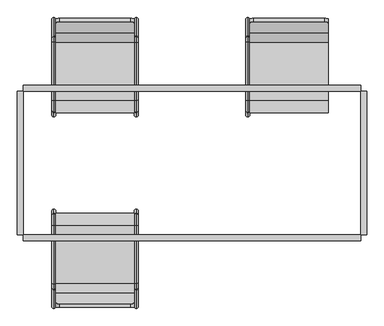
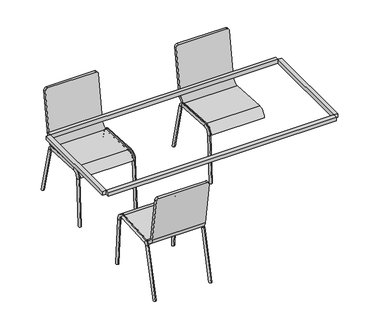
"""IFC4 building model written with IfcOpenShell, lengths in millimetres: furniture geometry, Esstisch mit Stühlen : 140 x 80 x 75 - 4 Stühle."""

from ifc_helpers import new_model, si_unit, point, frame, origin, place, context, project, spatial, polyline, circle_curve, ellipse_curve, trimmed, outline, extrude, source, transform, mapped, element, save
from ifc_brep_helpers import plane_surface, cylinder_surface, revolved_surface, advanced_brep


def furniture_cb06e47c(model_context):
    return source(origin(), model_context, "Body", "SolidModel", [
        advanced_brep(
        [(-389.1443717, 248.0385228, 0.0), (-399.1443717, 238.0554101, 0.5809138), (-409.1443717, 248.0385228, 0.0), (-399.1443717, 634.1722272, 383.1163586), (-399.1443717, 653.5781417, 387.9547965), (-399.1443717, 750.3061363, 0.0), (-399.1443717, 729.6938637, 0.0), (-399.1443717, 258.0554387, 0.0), (-399.1443717, 621.6509897, 414.4284246), (-399.1443717, 620.489162, 394.4621992), (-399.1443717, 322.0871192, 411.8261096), (-399.1443717, 323.2489468, 431.792335), (-399.1443717, 279.8310131, 374.2173141), (-399.1443717, 259.8647877, 375.3791418)],
        [
            (0, 1, circle_curve(frame((-399.1443717, 248.0385228, 0.0), z_axis=(0.0, -0.058091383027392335, -0.9983112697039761), x_axis=(0.0, -0.9983112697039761, 0.058091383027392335)), 10.0)),
            (1, 2, circle_curve(frame((-399.1443717, 248.0385228, 0.0), z_axis=(0.0, -0.058091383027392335, -0.9983112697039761), x_axis=(0.0, -0.9983112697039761, 0.058091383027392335)), 10.0)),
            (2, 0),
            (3, 4, circle_curve(frame((-399.1443717, 643.8751844, 385.5355776), z_axis=(0.0, 0.24192189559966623, -0.9702957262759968), x_axis=(0.0, 0.9702957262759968, 0.24192189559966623)), 10.0)),
            (4, 5),
            (5, 6, ellipse_curve(frame((-399.1443717, 740.0, 0.0), z_axis=(0.0, 0.0, 1.0), x_axis=(0.0, 1.0, 0.0)), 10.3061363, 10.0)),
            (6, 3),
            (4, 3, circle_curve(frame((-399.1443717, 643.8751844, 385.5355776), z_axis=(0.0, 0.24192189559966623, -0.9702957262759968), x_axis=(0.0, 0.9702957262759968, 0.24192189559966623)), 10.0)),
            (6, 5, ellipse_curve(frame((-399.1443717, 740.0, 0.0), z_axis=(0.0, 0.0, 1.0), x_axis=(0.0, 1.0, 0.0)), 10.3061363, 10.0)),
            (2, 7, ellipse_curve(frame((-399.1443717, 248.0385228, 0.0), z_axis=(0.0, 0.0, -1.0), x_axis=(0.0, 1.0, 0.0)), 10.0169159, 10.0)),
            (7, 0, ellipse_curve(frame((-399.1443717, 248.0385228, 0.0), z_axis=(0.0, 0.0, -1.0), x_axis=(0.0, 1.0, 0.0)), 10.0169159, 10.0)),
            (8, 9, circle_curve(frame((-399.1443717, 621.0700758, 404.4453119), z_axis=(0.0, -0.9983112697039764, 0.058091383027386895), x_axis=(0.0, 0.058091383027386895, 0.9983112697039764)), 10.0)),
            (9, 10),
            (10, 11, circle_curve(frame((-399.1443717, 322.668033, 421.8092223), z_axis=(0.0, 0.9983112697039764, -0.058091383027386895), x_axis=(0.0, 0.058091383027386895, 0.9983112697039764)), 10.0)),
            (11, 8),
            (9, 8, circle_curve(frame((-399.1443717, 621.0700758, 404.4453119), z_axis=(0.0, -0.9983112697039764, 0.058091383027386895), x_axis=(0.0, 0.058091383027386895, 0.9983112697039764)), 10.0)),
            (11, 10, circle_curve(frame((-399.1443717, 322.668033, 421.8092223), z_axis=(0.0, 0.9983112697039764, -0.058091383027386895), x_axis=(0.0, 0.058091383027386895, 0.9983112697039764)), 10.0)),
            (10, 12, circle_curve(frame((-399.1443717, 319.7634639, 371.8936588), z_axis=(1.0, 0.0, 0.0), x_axis=(0.0, 0.05809138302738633, 0.9983112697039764)), 40.0)),
            (12, 13, circle_curve(frame((-399.1443717, 269.8479004, 374.7982279), z_axis=(0.0, 0.058091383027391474, 0.9983112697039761), x_axis=(0.0, -0.9983112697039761, 0.058091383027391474)), 10.0)),
            (13, 11, circle_curve(frame((-399.1443717, 319.7634639, 371.8936588), z_axis=(-1.0, 0.0, 0.0), x_axis=(0.0, 0.05809138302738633, 0.9983112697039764)), 60.0)),
            (13, 12, circle_curve(frame((-399.1443717, 269.8479004, 374.7982279), z_axis=(0.0, 0.05809138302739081, 0.9983112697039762), x_axis=(0.0, -0.9983112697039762, 0.05809138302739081)), 10.0)),
            (12, 7),
            (1, 13),
            (3, 9, circle_curve(frame((-399.1443717, 619.6177913, 379.4875302), z_axis=(1.0, 0.0, 0.0), x_axis=(0.0, 0.9702957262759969, 0.2419218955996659)), 15.0)),
            (8, 4, circle_curve(frame((-399.1443717, 619.6177913, 379.4875302), z_axis=(-1.0, 0.0, 0.0), x_axis=(0.0, 0.9702957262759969, 0.2419218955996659)), 35.0)),
        ],
        [
            plane_surface(frame((-379.1443717, 248.0385228, 0.0), z_axis=(0.0, -0.058091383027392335, -0.9983112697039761), x_axis=(-1.0, 0.0, 0.0))),
            cylinder_surface(frame((-399.1443717, 742.6101503, -10.4687411), z_axis=(0.0, 0.24192189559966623, -0.9702957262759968), x_axis=(0.0, 0.9702957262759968, 0.24192189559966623)), 10.0),
            plane_surface(frame((63.435329, 775.4463822, 0.0), z_axis=(0.0, 0.0, -1.0), x_axis=(-1.0, 0.0, 0.0))),
            cylinder_surface(frame((-399.1443717, 621.0700758, 404.4453119), z_axis=(0.0, 0.9983112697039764, -0.058091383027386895), x_axis=(0.0, 0.058091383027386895, 0.9983112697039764)), 10.0),
            revolved_surface(trimmed(ellipse_curve(frame((-399.1443717, 322.668033, 421.8092223), z_axis=(0.0, 0.9983112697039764, -0.05809138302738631), x_axis=(0.0, 0.05809138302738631, 0.9983112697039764)), 10.0, 10.0), [point((-399.1443717, 322.0871192, 411.8261096))], [point((-399.1443717, 323.2489468, 431.792335))], True, "CARTESIAN"), (-379.1443717, 319.7634639, 371.8936588), (1.0, 0.0, 0.0)),
            revolved_surface(trimmed(ellipse_curve(frame((-399.1443717, 322.668033, 421.8092223), z_axis=(0.0, 0.9983112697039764, -0.05809138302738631), x_axis=(0.0, 0.05809138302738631, 0.9983112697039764)), 10.0, 10.0), [point((-399.1443717, 323.2489468, 431.792335))], [point((-399.1443717, 322.0871192, 411.8261096))], True, "CARTESIAN"), (-379.1443717, 319.7634639, 371.8936588), (1.0, 0.0, 0.0)),
            cylinder_surface(frame((-399.1443717, 269.8479004, 374.7982279), z_axis=(0.0, 0.058091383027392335, 0.9983112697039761), x_axis=(0.0, -0.9983112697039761, 0.058091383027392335)), 10.0),
            revolved_surface(trimmed(ellipse_curve(frame((-399.1443717, 643.8751844, 385.5355776), z_axis=(0.0, 0.2419218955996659, -0.9702957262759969), x_axis=(0.0, 0.9702957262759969, 0.2419218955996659)), 10.0, 10.0), [point((-399.1443717, 634.1722272, 383.1163586))], [point((-399.1443717, 653.5781417, 387.9547965))], True, "CARTESIAN"), (-379.1443717, 619.6177913, 379.4875302), (1.0, 0.0, 0.0)),
            revolved_surface(trimmed(ellipse_curve(frame((-399.1443717, 643.8751844, 385.5355776), z_axis=(0.0, 0.2419218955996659, -0.9702957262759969), x_axis=(0.0, 0.9702957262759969, 0.2419218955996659)), 10.0, 10.0), [point((-399.1443717, 653.5781417, 387.9547965))], [point((-399.1443717, 634.1722272, 383.1163586))], True, "CARTESIAN"), (-379.1443717, 619.6177913, 379.4875302), (1.0, 0.0, 0.0)),
        ],
        [
            (0, [[1, 2, 3]]),
            (1, [[4, 5, 6, 7]]),
            (1, [[8, -7, 9, -5]]),
            (2, [[-3, 10, 11]]),
            (2, [[-6, -9]]),
            (3, [[12, 13, 14, 15]]),
            (3, [[16, -15, 17, -13]]),
            (4, [[-14, 18, 19, 20]]),
            (5, [[-17, -20, 21, -18]]),
            (6, [[-19, 22, -10, -2, 23]]),
            (6, [[-21, -23, -1, -11, -22]]),
            (7, [[-4, 24, -12, 25]]),
            (8, [[-8, -25, -16, -24]]),
        ],
    ),
        advanced_brep(
        [(15.935329, 619.2901891, 414.5657988), (15.935329, 323.2489468, 431.792335), (15.935329, 259.8647877, 375.3791418), (15.935329, 279.8310131, 374.2173141), (15.935329, 322.0871192, 411.8261096), (15.935329, 618.1283614, 394.5995734), (15.935329, 691.4258686, 454.1347035), (15.935329, 742.282073, 794.4215124), (15.935329, 722.5017557, 797.3777006), (15.935329, 671.6455514, 457.0908917), (-389.064671, 619.2901891, 414.5657988), (-389.064671, 671.6455514, 457.0908917), (-389.064671, 722.5017557, 797.3777006), (-389.064671, 742.282073, 794.4215124), (-389.064671, 691.4258686, 454.1347035), (-389.064671, 618.1283614, 394.5995734), (-389.064671, 322.0871192, 411.8261096), (-389.064671, 279.8310131, 374.2173141), (-389.064671, 259.8647877, 375.3791418), (-389.064671, 323.2489468, 431.792335), (-369.064671, 745.2382612, 814.2018297), (-4.064671, 745.2382612, 814.2018297), (-369.064671, 725.4579439, 817.1580179), (-4.064671, 725.4579439, 817.1580179)],
        [
            (0, 1),
            (1, 2, circle_curve(frame((15.935329, 319.7634639, 371.8936588), z_axis=(1.0, 0.0, 0.0), x_axis=(0.0, 1.0, 0.0)), 60.0)),
            (2, 3),
            (3, 4, circle_curve(frame((15.935329, 319.7634639, 371.8936588), z_axis=(-1.0, 0.0, 0.0), x_axis=(0.0, 1.0, 0.0)), 40.0)),
            (4, 5),
            (5, 6, circle_curve(frame((15.935329, 622.1947582, 464.4813623), z_axis=(1.0, 0.0, 0.0), x_axis=(0.0, 1.0, 0.0)), 70.0)),
            (6, 7),
            (7, 8),
            (8, 9),
            (9, 0, circle_curve(frame((15.935329, 622.1947582, 464.4813623), z_axis=(-1.0, 0.0, 0.0), x_axis=(0.0, 1.0, 0.0)), 50.0)),
            (10, 11, circle_curve(frame((-389.064671, 622.1947582, 464.4813623), z_axis=(1.0, 0.0, 0.0), x_axis=(0.0, 1.0, 0.0)), 50.0)),
            (11, 12),
            (12, 13),
            (13, 14),
            (14, 15, circle_curve(frame((-389.064671, 622.1947582, 464.4813623), z_axis=(-1.0, 0.0, 0.0), x_axis=(0.0, 1.0, 0.0)), 70.0)),
            (15, 16),
            (16, 17, circle_curve(frame((-389.064671, 319.7634639, 371.8936588), z_axis=(1.0, 0.0, 0.0), x_axis=(0.0, 1.0, 0.0)), 40.0)),
            (17, 18),
            (18, 19, circle_curve(frame((-389.064671, 319.7634639, 371.8936588), z_axis=(-1.0, 0.0, 0.0), x_axis=(0.0, 1.0, 0.0)), 60.0)),
            (19, 10),
            (0, 10),
            (19, 1),
            (18, 2),
            (17, 3),
            (16, 4),
            (15, 5),
            (14, 6),
            (13, 20, circle_curve(frame((-369.064671, 742.282073, 794.4215124), z_axis=(0.0, 0.9890158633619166, -0.14780941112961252), x_axis=(1.0, 0.0, 0.0)), 20.0)),
            (20, 21),
            (21, 7, circle_curve(frame((-4.064671, 742.282073, 794.4215124), z_axis=(0.0, 0.9890158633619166, -0.14780941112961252), x_axis=(-1.0, 0.0, 0.0)), 20.0)),
            (20, 22),
            (22, 23),
            (23, 21),
            (11, 9),
            (8, 23, circle_curve(frame((-4.064671, 722.5017557, 797.3777006), z_axis=(0.0, -0.9890158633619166, 0.14780941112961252), x_axis=(-1.0, 0.0, 0.0)), 20.0)),
            (22, 12, circle_curve(frame((-369.064671, 722.5017557, 797.3777006), z_axis=(0.0, -0.9890158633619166, 0.14780941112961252), x_axis=(1.0, 0.0, 0.0)), 20.0)),
        ],
        [
            plane_surface(frame((15.935329, 325.4940122, 431.6616954), z_axis=(1.0000000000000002, 0.0, 0.0), x_axis=(0.0, -0.9983112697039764, 0.05809138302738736))),
            plane_surface(frame((-389.064671, 325.4940122, 431.6616954), z_axis=(-1.0000000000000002, 0.0, 0.0), x_axis=(0.0, 0.9983112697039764, -0.05809138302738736))),
            plane_surface(frame((15.935329, 619.2901891, 414.5657988), z_axis=(0.0, 0.05809138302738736, 0.9983112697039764), x_axis=(-1.0, 0.0, 0.0))),
            cylinder_surface(frame((-389.064671, 319.7634639, 371.8936588), z_axis=(1.0, 0.0, 0.0), x_axis=(0.0, 1.0, 0.0)), 60.0),
            plane_surface(frame((15.935329, 259.8647877, 375.3791418), z_axis=(0.0, -0.058091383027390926, -0.9983112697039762), x_axis=(-1.0, 0.0, 0.0))),
            revolved_surface(polyline([(-389.064671, 359.7634639, 371.8936588), (15.935329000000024, 359.7634639, 371.8936588)]), (-389.064671, 319.7634639, 371.8936588), (-1.0, 0.0, 0.0)),
            plane_surface(frame((15.935329, 322.0871192, 411.8261096), z_axis=(0.0, -0.05809138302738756, -0.9983112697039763), x_axis=(-1.0, 0.0, 0.0))),
            cylinder_surface(frame((-389.064671, 622.1947582, 464.4813623), z_axis=(1.0, 0.0, 0.0), x_axis=(0.0, 1.0, 0.0)), 70.0),
            plane_surface(frame((15.935329, 691.4258686, 454.1347035), z_axis=(0.0, 0.9890158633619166, -0.1478094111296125), x_axis=(-1.0, 0.0, 0.0))),
            plane_surface(frame((15.935329, 745.2382612, 814.2018297), z_axis=(0.0, 0.14780941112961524, 0.9890158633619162), x_axis=(-1.0, 0.0, 0.0))),
            plane_surface(frame((15.935329, 725.4579439, 817.1580179), z_axis=(0.0, -0.9890158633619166, 0.14780941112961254), x_axis=(-1.0, 0.0, 0.0))),
            revolved_surface(polyline([(-389.064671, 672.1947582, 464.4813623), (15.935329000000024, 672.1947582, 464.4813623)]), (-389.064671, 622.1947582, 464.4813623), (-1.0, 0.0, 0.0)),
            cylinder_surface(frame((-369.064671, 722.5017557, 797.3777006), z_axis=(0.0, -0.9890158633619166, 0.14780941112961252), x_axis=(1.0, 0.0, 0.0)), 20.0),
            cylinder_surface(frame((-4.064671, 722.5017557, 797.3777006), z_axis=(0.0, -0.9890158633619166, 0.14780941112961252), x_axis=(-1.0, 0.0, 0.0)), 20.0),
        ],
        [
            (0, [[1, 2, 3, 4, 5, 6, 7, 8, 9, 10]]),
            (1, [[11, 12, 13, 14, 15, 16, 17, 18, 19, 20]]),
            (2, [[-1, 21, -20, 22]]),
            (3, [[-2, -22, -19, 23]]),
            (4, [[-3, -23, -18, 24]]),
            (5, [[-4, -24, -17, 25]]),
            (6, [[-5, -25, -16, 26]]),
            (7, [[-6, -26, -15, 27]]),
            (8, [[-27, -14, 28, 29, 30, -7]]),
            (9, [[-29, 31, 32, 33]]),
            (10, [[34, -9, 35, -32, 36, -12]]),
            (11, [[-10, -34, -11, -21]]),
            (12, [[-13, -36, -31, -28]]),
            (13, [[-8, -30, -33, -35]]),
        ],
    ),
        advanced_brep(
        [(-973.9849702, -729.6938637, 0.0), (-973.9849702, -750.3061363, 0.0), (-963.9849702, -248.0385228, 0.0), (-973.9849702, -258.0554387, 0.0), (-983.9849702, -248.0385228, 0.0), (-973.9849702, -634.1722272, 383.1163586), (-973.9849702, -653.5781417, 387.9547965), (-973.9849702, -621.6509897, 414.4284246), (-973.9849702, -620.489162, 394.4621992), (-973.9849702, -323.2489468, 431.792335), (-973.9849702, -322.0871192, 411.8261096), (-973.9849702, -259.8647877, 375.3791418), (-973.9849702, -279.8310131, 374.2173141), (-973.9849702, -238.0554101, 0.5809138)],
        [
            (0, 1, ellipse_curve(frame((-973.9849702, -740.0, 0.0), z_axis=(0.0, 0.0, -1.0), x_axis=(0.0, -1.0, 0.0)), 10.3061363, 10.0)),
            (1, 0, ellipse_curve(frame((-973.9849702, -740.0, 0.0), z_axis=(0.0, 0.0, -1.0), x_axis=(0.0, -1.0, 0.0)), 10.3061363, 10.0)),
            (2, 3, ellipse_curve(frame((-973.9849702, -248.0385228, 0.0), z_axis=(0.0, 0.0, -1.0), x_axis=(0.0, -1.0, 0.0)), 10.0169159, 10.0)),
            (3, 4, ellipse_curve(frame((-973.9849702, -248.0385228, 0.0), z_axis=(0.0, 0.0, -1.0), x_axis=(0.0, -1.0, 0.0)), 10.0169159, 10.0)),
            (4, 2),
            (5, 0),
            (1, 6),
            (6, 5, circle_curve(frame((-973.9849702, -643.8751844, 385.5355776), z_axis=(0.0, -0.24192189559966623, -0.9702957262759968), x_axis=(0.0, -0.9702957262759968, 0.24192189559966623)), 10.0)),
            (5, 6, circle_curve(frame((-973.9849702, -643.8751844, 385.5355776), z_axis=(0.0, -0.24192189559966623, -0.9702957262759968), x_axis=(0.0, -0.9702957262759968, 0.24192189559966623)), 10.0)),
            (6, 7, circle_curve(frame((-973.9849702, -619.6177913, 379.4875302), z_axis=(-1.0, 0.0, 0.0), x_axis=(0.0, -0.9702957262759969, 0.2419218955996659)), 35.0)),
            (7, 8, circle_curve(frame((-973.9849702, -621.0700758, 404.4453119), z_axis=(0.0, -0.9983112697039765, -0.05809138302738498), x_axis=(0.0, -0.05809138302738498, 0.9983112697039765)), 10.0)),
            (8, 5, circle_curve(frame((-973.9849702, -619.6177913, 379.4875302), z_axis=(1.0, 0.0, 0.0), x_axis=(0.0, -0.9702957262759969, 0.2419218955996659)), 15.0)),
            (8, 7, circle_curve(frame((-973.9849702, -621.0700758, 404.4453119), z_axis=(0.0, -0.998311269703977, -0.058091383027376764), x_axis=(0.0, -0.058091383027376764, 0.998311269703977)), 10.0)),
            (7, 9),
            (9, 10, circle_curve(frame((-973.9849702, -322.668033, 421.8092223), z_axis=(0.0, -0.9983112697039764, -0.058091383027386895), x_axis=(0.0, -0.058091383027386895, 0.9983112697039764)), 10.0)),
            (10, 8),
            (10, 9, circle_curve(frame((-973.9849702, -322.668033, 421.8092223), z_axis=(0.0, -0.9983112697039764, -0.058091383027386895), x_axis=(0.0, -0.058091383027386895, 0.9983112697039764)), 10.0)),
            (9, 11, circle_curve(frame((-973.9849702, -319.7634639, 371.8936588), z_axis=(-1.0, 0.0, 0.0), x_axis=(0.0, -0.05809138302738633, 0.9983112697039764)), 60.0)),
            (11, 12, circle_curve(frame((-973.9849702, -269.8479004, 374.7982279), z_axis=(0.0, -0.05809138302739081, 0.9983112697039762), x_axis=(0.0, 0.9983112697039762, 0.05809138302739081)), 10.0)),
            (12, 10, circle_curve(frame((-973.9849702, -319.7634639, 371.8936588), z_axis=(1.0, 0.0, 0.0), x_axis=(0.0, -0.05809138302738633, 0.9983112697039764)), 40.0)),
            (12, 11, circle_curve(frame((-973.9849702, -269.8479004, 374.7982279), z_axis=(0.0, -0.058091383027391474, 0.9983112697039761), x_axis=(0.0, 0.9983112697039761, 0.058091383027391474)), 10.0)),
            (4, 13, circle_curve(frame((-973.9849702, -248.0385228, 0.0), z_axis=(0.0, 0.058091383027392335, -0.9983112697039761), x_axis=(0.0, 0.9983112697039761, 0.058091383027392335)), 10.0)),
            (13, 2, circle_curve(frame((-973.9849702, -248.0385228, 0.0), z_axis=(0.0, 0.058091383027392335, -0.9983112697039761), x_axis=(0.0, 0.9983112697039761, 0.058091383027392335)), 10.0)),
            (11, 13),
            (3, 12),
        ],
        [
            plane_surface(frame((-936.564671, -775.4463822, 0.0), z_axis=(0.0, 0.0, -1.0), x_axis=(-1.0, 0.0, 0.0))),
            cylinder_surface(frame((-973.9849702, -742.6101503, -10.4687411), z_axis=(0.0, -0.24192189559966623, -0.9702957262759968), x_axis=(0.0, -0.9702957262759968, 0.24192189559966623)), 10.0),
            revolved_surface(trimmed(ellipse_curve(frame((-973.9849702, -643.8751844, 385.5355776), z_axis=(0.0, 0.2419218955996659, 0.9702957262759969), x_axis=(0.0, -0.9702957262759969, 0.2419218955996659)), 10.0, 10.0), [point((-973.9849702, -634.1722272, 383.1163586))], [point((-973.9849702, -653.5781417, 387.9547965))], True, "CARTESIAN"), (-993.9849702, -619.6177913, 379.4875302), (1.0, 0.0, 0.0)),
            revolved_surface(trimmed(ellipse_curve(frame((-973.9849702, -643.8751844, 385.5355776), z_axis=(0.0, 0.2419218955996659, 0.9702957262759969), x_axis=(0.0, -0.9702957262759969, 0.2419218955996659)), 10.0, 10.0), [point((-973.9849702, -653.5781417, 387.9547965))], [point((-973.9849702, -634.1722272, 383.1163586))], True, "CARTESIAN"), (-993.9849702, -619.6177913, 379.4875302), (1.0, 0.0, 0.0)),
            cylinder_surface(frame((-973.9849702, -621.0700758, 404.4453119), z_axis=(0.0, -0.9983112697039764, -0.058091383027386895), x_axis=(0.0, -0.058091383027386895, 0.9983112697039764)), 10.0),
            revolved_surface(trimmed(ellipse_curve(frame((-973.9849702, -322.668033, 421.8092223), z_axis=(0.0, 0.9983112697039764, 0.05809138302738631), x_axis=(0.0, -0.05809138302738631, 0.9983112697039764)), 10.0, 10.0), [point((-973.9849702, -322.0871192, 411.8261096))], [point((-973.9849702, -323.2489468, 431.792335))], True, "CARTESIAN"), (-993.9849702, -319.7634639, 371.8936588), (1.0, 0.0, 0.0)),
            revolved_surface(trimmed(ellipse_curve(frame((-973.9849702, -322.668033, 421.8092223), z_axis=(0.0, 0.9983112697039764, 0.05809138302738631), x_axis=(0.0, -0.05809138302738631, 0.9983112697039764)), 10.0, 10.0), [point((-973.9849702, -323.2489468, 431.792335))], [point((-973.9849702, -322.0871192, 411.8261096))], True, "CARTESIAN"), (-993.9849702, -319.7634639, 371.8936588), (1.0, 0.0, 0.0)),
            plane_surface(frame((-993.9849702, -248.0385228, 0.0), z_axis=(0.0, 0.058091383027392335, -0.9983112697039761), x_axis=(1.0, 0.0, 0.0))),
            cylinder_surface(frame((-973.9849702, -269.8479004, 374.7982279), z_axis=(0.0, -0.058091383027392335, 0.9983112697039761), x_axis=(0.0, 0.9983112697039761, 0.058091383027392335)), 10.0),
        ],
        [
            (0, [[1, 2]]),
            (0, [[3, 4, 5]]),
            (1, [[6, -2, 7, 8]]),
            (1, [[-7, -1, -6, 9]]),
            (2, [[10, 11, 12, -8]]),
            (3, [[-12, 13, -10, -9]]),
            (4, [[14, 15, 16, -11]]),
            (4, [[-16, 17, -14, -13]]),
            (5, [[18, 19, 20, -15]]),
            (6, [[-20, 21, -18, -17]]),
            (7, [[-5, 22, 23]]),
            (8, [[24, -22, -4, 25, -19]]),
            (8, [[-25, -3, -23, -24, -21]]),
        ],
    ),
        advanced_brep(
        [(-1389.1443717, -248.0385228, 0.0), (-1409.1443717, -248.0385228, 0.0), (-1399.1443717, -238.0554101, 0.5809138), (-1399.1443717, -634.1722272, 383.1163586), (-1399.1443717, -729.6938637, 0.0), (-1399.1443717, -750.3061363, 0.0), (-1399.1443717, -653.5781417, 387.9547965), (-1399.1443717, -258.0554387, 0.0), (-1399.1443717, -621.6509897, 414.4284246), (-1399.1443717, -323.2489468, 431.792335), (-1399.1443717, -322.0871192, 411.8261096), (-1399.1443717, -620.489162, 394.4621992), (-1399.1443717, -259.8647877, 375.3791418), (-1399.1443717, -279.8310131, 374.2173141)],
        [
            (0, 1),
            (1, 2, circle_curve(frame((-1399.1443717, -248.0385228, 0.0), z_axis=(0.0, 0.058091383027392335, -0.9983112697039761), x_axis=(0.0, 0.9983112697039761, 0.058091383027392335)), 10.0)),
            (2, 0, circle_curve(frame((-1399.1443717, -248.0385228, 0.0), z_axis=(0.0, 0.058091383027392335, -0.9983112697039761), x_axis=(0.0, 0.9983112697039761, 0.058091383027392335)), 10.0)),
            (3, 4),
            (4, 5, ellipse_curve(frame((-1399.1443717, -740.0, 0.0), z_axis=(0.0, 0.0, 1.0), x_axis=(0.0, -1.0, 0.0)), 10.3061363, 10.0)),
            (5, 6),
            (6, 3, circle_curve(frame((-1399.1443717, -643.8751844, 385.5355776), z_axis=(0.0, -0.24192189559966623, -0.9702957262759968), x_axis=(0.0, -0.9702957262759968, 0.24192189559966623)), 10.0)),
            (5, 4, ellipse_curve(frame((-1399.1443717, -740.0, 0.0), z_axis=(0.0, 0.0, 1.0), x_axis=(0.0, -1.0, 0.0)), 10.3061363, 10.0)),
            (3, 6, circle_curve(frame((-1399.1443717, -643.8751844, 385.5355776), z_axis=(0.0, -0.24192189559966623, -0.9702957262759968), x_axis=(0.0, -0.9702957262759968, 0.24192189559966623)), 10.0)),
            (0, 7, ellipse_curve(frame((-1399.1443717, -248.0385228, 0.0), z_axis=(0.0, 0.0, -1.0), x_axis=(0.0, -1.0, 0.0)), 10.0169159, 10.0)),
            (7, 1, ellipse_curve(frame((-1399.1443717, -248.0385228, 0.0), z_axis=(0.0, 0.0, -1.0), x_axis=(0.0, -1.0, 0.0)), 10.0169159, 10.0)),
            (8, 9),
            (9, 10, circle_curve(frame((-1399.1443717, -322.668033, 421.8092223), z_axis=(0.0, -0.9983112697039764, -0.058091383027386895), x_axis=(0.0, -0.058091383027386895, 0.9983112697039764)), 10.0)),
            (10, 11),
            (11, 8, circle_curve(frame((-1399.1443717, -621.0700758, 404.4453119), z_axis=(0.0, 0.9983112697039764, 0.058091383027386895), x_axis=(0.0, -0.058091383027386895, 0.9983112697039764)), 10.0)),
            (10, 9, circle_curve(frame((-1399.1443717, -322.668033, 421.8092223), z_axis=(0.0, -0.9983112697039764, -0.058091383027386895), x_axis=(0.0, -0.058091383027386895, 0.9983112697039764)), 10.0)),
            (8, 11, circle_curve(frame((-1399.1443717, -621.0700758, 404.4453119), z_axis=(0.0, 0.9983112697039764, 0.058091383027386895), x_axis=(0.0, -0.058091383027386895, 0.9983112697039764)), 10.0)),
            (9, 12, circle_curve(frame((-1399.1443717, -319.7634639, 371.8936588), z_axis=(-1.0, 0.0, 0.0), x_axis=(0.0, -0.05809138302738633, 0.9983112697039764)), 60.0)),
            (12, 13, circle_curve(frame((-1399.1443717, -269.8479004, 374.7982279), z_axis=(0.0, -0.05809138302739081, 0.9983112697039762), x_axis=(0.0, 0.9983112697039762, 0.05809138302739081)), 10.0)),
            (13, 10, circle_curve(frame((-1399.1443717, -319.7634639, 371.8936588), z_axis=(1.0, 0.0, 0.0), x_axis=(0.0, -0.05809138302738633, 0.9983112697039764)), 40.0)),
            (13, 12, circle_curve(frame((-1399.1443717, -269.8479004, 374.7982279), z_axis=(0.0, -0.058091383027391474, 0.9983112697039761), x_axis=(0.0, 0.9983112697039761, 0.058091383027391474)), 10.0)),
            (12, 2),
            (7, 13),
            (6, 8, circle_curve(frame((-1399.1443717, -619.6177913, 379.4875302), z_axis=(-1.0, 0.0, 0.0), x_axis=(0.0, -0.9702957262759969, 0.2419218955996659)), 35.0)),
            (11, 3, circle_curve(frame((-1399.1443717, -619.6177913, 379.4875302), z_axis=(1.0, 0.0, 0.0), x_axis=(0.0, -0.9702957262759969, 0.2419218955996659)), 15.0)),
        ],
        [
            plane_surface(frame((-1379.1443717, -248.0385228, 0.0), z_axis=(0.0, 0.058091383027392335, -0.9983112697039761), x_axis=(-1.0, 0.0, 0.0))),
            cylinder_surface(frame((-1399.1443717, -742.6101503, -10.4687411), z_axis=(0.0, -0.24192189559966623, -0.9702957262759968), x_axis=(0.0, -0.9702957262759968, 0.24192189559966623)), 10.0),
            plane_surface(frame((-936.564671, -775.4463822, 0.0), z_axis=(0.0, 0.0, -1.0), x_axis=(-1.0, 0.0, 0.0))),
            cylinder_surface(frame((-1399.1443717, -621.0700758, 404.4453119), z_axis=(0.0, -0.9983112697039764, -0.058091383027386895), x_axis=(0.0, -0.058091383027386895, 0.9983112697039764)), 10.0),
            revolved_surface(trimmed(ellipse_curve(frame((-1399.1443717, -322.668033, 421.8092223), z_axis=(0.0, 0.9983112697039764, 0.05809138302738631), x_axis=(0.0, -0.05809138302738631, 0.9983112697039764)), 10.0, 10.0), [point((-1399.1443717, -322.0871192, 411.8261096))], [point((-1399.1443717, -323.2489468, 431.792335))], True, "CARTESIAN"), (-1379.1443717, -319.7634639, 371.8936588), (1.0, 0.0, 0.0)),
            revolved_surface(trimmed(ellipse_curve(frame((-1399.1443717, -322.668033, 421.8092223), z_axis=(0.0, 0.9983112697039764, 0.05809138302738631), x_axis=(0.0, -0.05809138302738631, 0.9983112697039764)), 10.0, 10.0), [point((-1399.1443717, -323.2489468, 431.792335))], [point((-1399.1443717, -322.0871192, 411.8261096))], True, "CARTESIAN"), (-1379.1443717, -319.7634639, 371.8936588), (1.0, 0.0, 0.0)),
            cylinder_surface(frame((-1399.1443717, -269.8479004, 374.7982279), z_axis=(0.0, -0.058091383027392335, 0.9983112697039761), x_axis=(0.0, 0.9983112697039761, 0.058091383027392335)), 10.0),
            revolved_surface(trimmed(ellipse_curve(frame((-1399.1443717, -643.8751844, 385.5355776), z_axis=(0.0, 0.2419218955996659, 0.9702957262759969), x_axis=(0.0, -0.9702957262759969, 0.2419218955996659)), 10.0, 10.0), [point((-1399.1443717, -634.1722272, 383.1163586))], [point((-1399.1443717, -653.5781417, 387.9547965))], True, "CARTESIAN"), (-1379.1443717, -619.6177913, 379.4875302), (1.0, 0.0, 0.0)),
            revolved_surface(trimmed(ellipse_curve(frame((-1399.1443717, -643.8751844, 385.5355776), z_axis=(0.0, 0.2419218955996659, 0.9702957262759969), x_axis=(0.0, -0.9702957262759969, 0.2419218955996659)), 10.0, 10.0), [point((-1399.1443717, -653.5781417, 387.9547965))], [point((-1399.1443717, -634.1722272, 383.1163586))], True, "CARTESIAN"), (-1379.1443717, -619.6177913, 379.4875302), (1.0, 0.0, 0.0)),
        ],
        [
            (0, [[1, 2, 3]]),
            (1, [[4, 5, 6, 7]]),
            (1, [[-6, 8, -4, 9]]),
            (2, [[-8, -5]]),
            (2, [[10, 11, -1]]),
            (3, [[12, 13, 14, 15]]),
            (3, [[-14, 16, -12, 17]]),
            (4, [[18, 19, 20, -13]]),
            (5, [[-20, 21, -18, -16]]),
            (6, [[22, -2, -11, 23, -19]]),
            (6, [[-23, -10, -3, -22, -21]]),
            (7, [[24, -15, 25, -7]]),
            (8, [[-25, -17, -24, -9]]),
        ],
    ),
        advanced_brep(
        [(-984.064671, -619.2901891, 414.5657988), (-984.064671, -671.6455514, 457.0908917), (-984.064671, -722.5017557, 797.3777006), (-984.064671, -742.282073, 794.4215124), (-984.064671, -691.4258686, 454.1347035), (-984.064671, -618.1283614, 394.5995734), (-984.064671, -322.0871192, 411.8261096), (-984.064671, -279.8310131, 374.2173141), (-984.064671, -259.8647877, 375.3791418), (-984.064671, -323.2489468, 431.792335), (-1389.064671, -619.2901891, 414.5657988), (-1389.064671, -323.2489468, 431.792335), (-1389.064671, -259.8647877, 375.3791418), (-1389.064671, -279.8310131, 374.2173141), (-1389.064671, -322.0871192, 411.8261096), (-1389.064671, -618.1283614, 394.5995734), (-1389.064671, -691.4258686, 454.1347035), (-1389.064671, -742.282073, 794.4215124), (-1389.064671, -722.5017557, 797.3777006), (-1389.064671, -671.6455514, 457.0908917), (-1004.064671, -745.2382612, 814.2018297), (-1369.064671, -745.2382612, 814.2018297), (-1004.064671, -725.4579439, 817.1580179), (-1369.064671, -725.4579439, 817.1580179)],
        [
            (0, 1, circle_curve(frame((-984.064671, -622.1947582, 464.4813623), z_axis=(-1.0, 0.0, 0.0), x_axis=(0.0, -1.0, 0.0)), 50.0)),
            (1, 2),
            (2, 3),
            (3, 4),
            (4, 5, circle_curve(frame((-984.064671, -622.1947582, 464.4813623), z_axis=(1.0, 0.0, 0.0), x_axis=(0.0, -1.0, 0.0)), 70.0)),
            (5, 6),
            (6, 7, circle_curve(frame((-984.064671, -319.7634639, 371.8936588), z_axis=(-1.0, 0.0, 0.0), x_axis=(0.0, -1.0, 0.0)), 40.0)),
            (7, 8),
            (8, 9, circle_curve(frame((-984.064671, -319.7634639, 371.8936588), z_axis=(1.0, 0.0, 0.0), x_axis=(0.0, -1.0, 0.0)), 60.0)),
            (9, 0),
            (10, 11),
            (11, 12, circle_curve(frame((-1389.064671, -319.7634639, 371.8936588), z_axis=(-1.0, 0.0, 0.0), x_axis=(0.0, -1.0, 0.0)), 60.0)),
            (12, 13),
            (13, 14, circle_curve(frame((-1389.064671, -319.7634639, 371.8936588), z_axis=(1.0, 0.0, 0.0), x_axis=(0.0, -1.0, 0.0)), 40.0)),
            (14, 15),
            (15, 16, circle_curve(frame((-1389.064671, -622.1947582, 464.4813623), z_axis=(-1.0, 0.0, 0.0), x_axis=(0.0, -1.0, 0.0)), 70.0)),
            (16, 17),
            (17, 18),
            (18, 19),
            (19, 10, circle_curve(frame((-1389.064671, -622.1947582, 464.4813623), z_axis=(1.0, 0.0, 0.0), x_axis=(0.0, -1.0, 0.0)), 50.0)),
            (9, 11),
            (10, 0),
            (8, 12),
            (7, 13),
            (6, 14),
            (5, 15),
            (4, 16),
            (3, 20, circle_curve(frame((-1004.064671, -742.282073, 794.4215124), z_axis=(0.0, -0.9890158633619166, -0.14780941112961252), x_axis=(-1.0, 0.0, 0.0)), 20.0)),
            (20, 21),
            (21, 17, circle_curve(frame((-1369.064671, -742.282073, 794.4215124), z_axis=(0.0, -0.9890158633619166, -0.14780941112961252), x_axis=(1.0, 0.0, 0.0)), 20.0)),
            (20, 22),
            (22, 23),
            (23, 21),
            (18, 23, circle_curve(frame((-1369.064671, -722.5017557, 797.3777006), z_axis=(0.0, 0.9890158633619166, 0.14780941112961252), x_axis=(1.0, 0.0, 0.0)), 20.0)),
            (22, 2, circle_curve(frame((-1004.064671, -722.5017557, 797.3777006), z_axis=(0.0, 0.9890158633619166, 0.14780941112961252), x_axis=(-1.0, 0.0, 0.0)), 20.0)),
            (1, 19),
        ],
        [
            plane_surface(frame((-984.064671, -325.4940122, 431.6616954), z_axis=(1.0000000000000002, 0.0, 0.0), x_axis=(0.0, 0.9983112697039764, 0.05809138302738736))),
            plane_surface(frame((-1389.064671, -325.4940122, 431.6616954), z_axis=(-1.0000000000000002, 0.0, 0.0), x_axis=(0.0, -0.9983112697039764, -0.05809138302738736))),
            plane_surface(frame((-984.064671, -619.2901891, 414.5657988), z_axis=(0.0, -0.05809138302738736, 0.9983112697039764), x_axis=(-1.0, 0.0, 0.0))),
            cylinder_surface(frame((-1389.064671, -319.7634639, 371.8936588), z_axis=(1.0, 0.0, 0.0), x_axis=(0.0, -1.0, 0.0)), 60.0),
            plane_surface(frame((-984.064671, -259.8647877, 375.3791418), z_axis=(0.0, 0.058091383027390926, -0.9983112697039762), x_axis=(-1.0, 0.0, 0.0))),
            revolved_surface(polyline([(-1389.064671, -359.7634639, 371.8936588), (-984.064671, -359.7634639, 371.8936588)]), (-1389.064671, -319.7634639, 371.8936588), (-1.0, 0.0, 0.0)),
            plane_surface(frame((-984.064671, -322.0871192, 411.8261096), z_axis=(0.0, 0.05809138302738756, -0.9983112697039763), x_axis=(-1.0, 0.0, 0.0))),
            cylinder_surface(frame((-1389.064671, -622.1947582, 464.4813623), z_axis=(1.0, 0.0, 0.0), x_axis=(0.0, -1.0, 0.0)), 70.0),
            plane_surface(frame((-984.064671, -691.4258686, 454.1347035), z_axis=(0.0, -0.9890158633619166, -0.1478094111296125), x_axis=(-1.0, 0.0, 0.0))),
            plane_surface(frame((-984.064671, -745.2382612, 814.2018297), z_axis=(0.0, -0.14780941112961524, 0.9890158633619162), x_axis=(-1.0, 0.0, 0.0))),
            plane_surface(frame((-984.064671, -725.4579439, 817.1580179), z_axis=(0.0, 0.9890158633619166, 0.14780941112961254), x_axis=(-1.0, 0.0, 0.0))),
            revolved_surface(polyline([(-1389.064671, -672.1947582, 464.4813623), (-984.064671, -672.1947582, 464.4813623)]), (-1389.064671, -622.1947582, 464.4813623), (-1.0, 0.0, 0.0)),
            cylinder_surface(frame((-1369.064671, -722.5017557, 797.3777006), z_axis=(0.0, 0.9890158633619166, 0.14780941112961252), x_axis=(1.0, 0.0, 0.0)), 20.0),
            cylinder_surface(frame((-1004.064671, -722.5017557, 797.3777006), z_axis=(0.0, 0.9890158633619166, 0.14780941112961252), x_axis=(-1.0, 0.0, 0.0)), 20.0),
        ],
        [
            (0, [[1, 2, 3, 4, 5, 6, 7, 8, 9, 10]]),
            (1, [[11, 12, 13, 14, 15, 16, 17, 18, 19, 20]]),
            (2, [[21, -11, 22, -10]]),
            (3, [[23, -12, -21, -9]]),
            (4, [[24, -13, -23, -8]]),
            (5, [[25, -14, -24, -7]]),
            (6, [[26, -15, -25, -6]]),
            (7, [[27, -16, -26, -5]]),
            (8, [[-4, 28, 29, 30, -17, -27]]),
            (9, [[31, 32, 33, -29]]),
            (10, [[-19, 34, -32, 35, -2, 36]]),
            (11, [[-22, -20, -36, -1]]),
            (12, [[-30, -33, -34, -18]]),
            (13, [[-35, -31, -28, -3]]),
        ],
    ),
        advanced_brep(
        [(-973.9849702, 729.6938637, 0.0), (-973.9849702, 750.3061363, 0.0), (-963.9849702, 248.0385228, 0.0), (-983.9849702, 248.0385228, 0.0), (-973.9849702, 258.0554387, 0.0), (-973.9849702, 634.1722272, 383.1163586), (-973.9849702, 653.5781417, 387.9547965), (-973.9849702, 620.489162, 394.4621992), (-973.9849702, 621.6509897, 414.4284246), (-973.9849702, 322.0871192, 411.8261096), (-973.9849702, 323.2489468, 431.792335), (-973.9849702, 279.8310131, 374.2173141), (-973.9849702, 259.8647877, 375.3791418), (-973.9849702, 238.0554101, 0.5809138)],
        [
            (0, 1, ellipse_curve(frame((-973.9849702, 740.0, 0.0), z_axis=(0.0, 0.0, -1.0), x_axis=(0.0, 1.0, 0.0)), 10.3061363, 10.0)),
            (1, 0, ellipse_curve(frame((-973.9849702, 740.0, 0.0), z_axis=(0.0, 0.0, -1.0), x_axis=(0.0, 1.0, 0.0)), 10.3061363, 10.0)),
            (2, 3),
            (3, 4, ellipse_curve(frame((-973.9849702, 248.0385228, 0.0), z_axis=(0.0, 0.0, -1.0), x_axis=(0.0, 1.0, 0.0)), 10.0169159, 10.0)),
            (4, 2, ellipse_curve(frame((-973.9849702, 248.0385228, 0.0), z_axis=(0.0, 0.0, -1.0), x_axis=(0.0, 1.0, 0.0)), 10.0169159, 10.0)),
            (5, 6, circle_curve(frame((-973.9849702, 643.8751844, 385.5355776), z_axis=(0.0, 0.24192189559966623, -0.9702957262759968), x_axis=(0.0, 0.9702957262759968, 0.24192189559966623)), 10.0)),
            (6, 1),
            (0, 5),
            (6, 5, circle_curve(frame((-973.9849702, 643.8751844, 385.5355776), z_axis=(0.0, 0.24192189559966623, -0.9702957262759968), x_axis=(0.0, 0.9702957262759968, 0.24192189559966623)), 10.0)),
            (5, 7, circle_curve(frame((-973.9849702, 619.6177913, 379.4875302), z_axis=(1.0, 0.0, 0.0), x_axis=(0.0, 0.9702957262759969, 0.2419218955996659)), 15.0)),
            (7, 8, circle_curve(frame((-973.9849702, 621.0700758, 404.4453119), z_axis=(0.0, 0.998311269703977, -0.058091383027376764), x_axis=(0.0, 0.058091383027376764, 0.998311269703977)), 10.0)),
            (8, 6, circle_curve(frame((-973.9849702, 619.6177913, 379.4875302), z_axis=(-1.0, 0.0, 0.0), x_axis=(0.0, 0.9702957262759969, 0.2419218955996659)), 35.0)),
            (8, 7, circle_curve(frame((-973.9849702, 621.0700758, 404.4453119), z_axis=(0.0, 0.9983112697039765, -0.05809138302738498), x_axis=(0.0, 0.05809138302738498, 0.9983112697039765)), 10.0)),
            (7, 9),
            (9, 10, circle_curve(frame((-973.9849702, 322.668033, 421.8092223), z_axis=(0.0, 0.9983112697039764, -0.058091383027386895), x_axis=(0.0, 0.058091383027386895, 0.9983112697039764)), 10.0)),
            (10, 8),
            (10, 9, circle_curve(frame((-973.9849702, 322.668033, 421.8092223), z_axis=(0.0, 0.9983112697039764, -0.058091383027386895), x_axis=(0.0, 0.058091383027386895, 0.9983112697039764)), 10.0)),
            (9, 11, circle_curve(frame((-973.9849702, 319.7634639, 371.8936588), z_axis=(1.0, 0.0, 0.0), x_axis=(0.0, 0.05809138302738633, 0.9983112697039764)), 40.0)),
            (11, 12, circle_curve(frame((-973.9849702, 269.8479004, 374.7982279), z_axis=(0.0, 0.058091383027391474, 0.9983112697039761), x_axis=(0.0, -0.9983112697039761, 0.058091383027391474)), 10.0)),
            (12, 10, circle_curve(frame((-973.9849702, 319.7634639, 371.8936588), z_axis=(-1.0, 0.0, 0.0), x_axis=(0.0, 0.05809138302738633, 0.9983112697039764)), 60.0)),
            (12, 11, circle_curve(frame((-973.9849702, 269.8479004, 374.7982279), z_axis=(0.0, 0.05809138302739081, 0.9983112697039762), x_axis=(0.0, -0.9983112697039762, 0.05809138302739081)), 10.0)),
            (2, 13, circle_curve(frame((-973.9849702, 248.0385228, 0.0), z_axis=(0.0, -0.058091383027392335, -0.9983112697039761), x_axis=(0.0, -0.9983112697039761, 0.058091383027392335)), 10.0)),
            (13, 3, circle_curve(frame((-973.9849702, 248.0385228, 0.0), z_axis=(0.0, -0.058091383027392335, -0.9983112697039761), x_axis=(0.0, -0.9983112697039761, 0.058091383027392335)), 10.0)),
            (11, 4),
            (13, 12),
        ],
        [
            plane_surface(frame((-936.564671, 775.4463822, 0.0), z_axis=(0.0, 0.0, -1.0), x_axis=(-1.0, 0.0, 0.0))),
            cylinder_surface(frame((-973.9849702, 742.6101503, -10.4687411), z_axis=(0.0, 0.24192189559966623, -0.9702957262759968), x_axis=(0.0, 0.9702957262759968, 0.24192189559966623)), 10.0),
            revolved_surface(trimmed(ellipse_curve(frame((-973.9849702, 643.8751844, 385.5355776), z_axis=(0.0, 0.2419218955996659, -0.9702957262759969), x_axis=(0.0, 0.9702957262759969, 0.2419218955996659)), 10.0, 10.0), [point((-973.9849702, 634.1722272, 383.1163586))], [point((-973.9849702, 653.5781417, 387.9547965))], True, "CARTESIAN"), (-993.9849702, 619.6177913, 379.4875302), (1.0, 0.0, 0.0)),
            revolved_surface(trimmed(ellipse_curve(frame((-973.9849702, 643.8751844, 385.5355776), z_axis=(0.0, 0.2419218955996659, -0.9702957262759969), x_axis=(0.0, 0.9702957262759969, 0.2419218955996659)), 10.0, 10.0), [point((-973.9849702, 653.5781417, 387.9547965))], [point((-973.9849702, 634.1722272, 383.1163586))], True, "CARTESIAN"), (-993.9849702, 619.6177913, 379.4875302), (1.0, 0.0, 0.0)),
            cylinder_surface(frame((-973.9849702, 621.0700758, 404.4453119), z_axis=(0.0, 0.9983112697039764, -0.058091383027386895), x_axis=(0.0, 0.058091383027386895, 0.9983112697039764)), 10.0),
            revolved_surface(trimmed(ellipse_curve(frame((-973.9849702, 322.668033, 421.8092223), z_axis=(0.0, 0.9983112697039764, -0.05809138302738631), x_axis=(0.0, 0.05809138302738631, 0.9983112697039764)), 10.0, 10.0), [point((-973.9849702, 322.0871192, 411.8261096))], [point((-973.9849702, 323.2489468, 431.792335))], True, "CARTESIAN"), (-993.9849702, 319.7634639, 371.8936588), (1.0, 0.0, 0.0)),
            revolved_surface(trimmed(ellipse_curve(frame((-973.9849702, 322.668033, 421.8092223), z_axis=(0.0, 0.9983112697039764, -0.05809138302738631), x_axis=(0.0, 0.05809138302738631, 0.9983112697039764)), 10.0, 10.0), [point((-973.9849702, 323.2489468, 431.792335))], [point((-973.9849702, 322.0871192, 411.8261096))], True, "CARTESIAN"), (-993.9849702, 319.7634639, 371.8936588), (1.0, 0.0, 0.0)),
            plane_surface(frame((-993.9849702, 248.0385228, 0.0), z_axis=(0.0, -0.058091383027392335, -0.9983112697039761), x_axis=(1.0, 0.0, 0.0))),
            cylinder_surface(frame((-973.9849702, 269.8479004, 374.7982279), z_axis=(0.0, 0.058091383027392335, 0.9983112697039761), x_axis=(0.0, -0.9983112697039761, 0.058091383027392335)), 10.0),
        ],
        [
            (0, [[1, 2]]),
            (0, [[3, 4, 5]]),
            (1, [[6, 7, -1, 8]]),
            (1, [[9, -8, -2, -7]]),
            (2, [[-6, 10, 11, 12]]),
            (3, [[-9, -12, 13, -10]]),
            (4, [[-11, 14, 15, 16]]),
            (4, [[-13, -16, 17, -14]]),
            (5, [[-15, 18, 19, 20]]),
            (6, [[-17, -20, 21, -18]]),
            (7, [[22, 23, -3]]),
            (8, [[-19, 24, -4, -23, 25]]),
            (8, [[-21, -25, -22, -5, -24]]),
        ],
    ),
        advanced_brep(
        [(-1389.1443717, 248.0385228, 0.0), (-1399.1443717, 238.0554101, 0.5809138), (-1409.1443717, 248.0385228, 0.0), (-1399.1443717, 634.1722272, 383.1163586), (-1399.1443717, 653.5781417, 387.9547965), (-1399.1443717, 750.3061363, 0.0), (-1399.1443717, 729.6938637, 0.0), (-1399.1443717, 258.0554387, 0.0), (-1399.1443717, 621.6509897, 414.4284246), (-1399.1443717, 620.489162, 394.4621992), (-1399.1443717, 322.0871192, 411.8261096), (-1399.1443717, 323.2489468, 431.792335), (-1399.1443717, 279.8310131, 374.2173141), (-1399.1443717, 259.8647877, 375.3791418)],
        [
            (0, 1, circle_curve(frame((-1399.1443717, 248.0385228, 0.0), z_axis=(0.0, -0.058091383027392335, -0.9983112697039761), x_axis=(0.0, -0.9983112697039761, 0.058091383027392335)), 10.0)),
            (1, 2, circle_curve(frame((-1399.1443717, 248.0385228, 0.0), z_axis=(0.0, -0.058091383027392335, -0.9983112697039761), x_axis=(0.0, -0.9983112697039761, 0.058091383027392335)), 10.0)),
            (2, 0),
            (3, 4, circle_curve(frame((-1399.1443717, 643.8751844, 385.5355776), z_axis=(0.0, 0.24192189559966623, -0.9702957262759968), x_axis=(0.0, 0.9702957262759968, 0.24192189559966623)), 10.0)),
            (4, 5),
            (5, 6, ellipse_curve(frame((-1399.1443717, 740.0, 0.0), z_axis=(0.0, 0.0, 1.0), x_axis=(0.0, 1.0, 0.0)), 10.3061363, 10.0)),
            (6, 3),
            (4, 3, circle_curve(frame((-1399.1443717, 643.8751844, 385.5355776), z_axis=(0.0, 0.24192189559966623, -0.9702957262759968), x_axis=(0.0, 0.9702957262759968, 0.24192189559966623)), 10.0)),
            (6, 5, ellipse_curve(frame((-1399.1443717, 740.0, 0.0), z_axis=(0.0, 0.0, 1.0), x_axis=(0.0, 1.0, 0.0)), 10.3061363, 10.0)),
            (2, 7, ellipse_curve(frame((-1399.1443717, 248.0385228, 0.0), z_axis=(0.0, 0.0, -1.0), x_axis=(0.0, 1.0, 0.0)), 10.0169159, 10.0)),
            (7, 0, ellipse_curve(frame((-1399.1443717, 248.0385228, 0.0), z_axis=(0.0, 0.0, -1.0), x_axis=(0.0, 1.0, 0.0)), 10.0169159, 10.0)),
            (8, 9, circle_curve(frame((-1399.1443717, 621.0700758, 404.4453119), z_axis=(0.0, -0.9983112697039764, 0.058091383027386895), x_axis=(0.0, 0.058091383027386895, 0.9983112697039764)), 10.0)),
            (9, 10),
            (10, 11, circle_curve(frame((-1399.1443717, 322.668033, 421.8092223), z_axis=(0.0, 0.9983112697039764, -0.058091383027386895), x_axis=(0.0, 0.058091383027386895, 0.9983112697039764)), 10.0)),
            (11, 8),
            (9, 8, circle_curve(frame((-1399.1443717, 621.0700758, 404.4453119), z_axis=(0.0, -0.9983112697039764, 0.058091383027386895), x_axis=(0.0, 0.058091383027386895, 0.9983112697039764)), 10.0)),
            (11, 10, circle_curve(frame((-1399.1443717, 322.668033, 421.8092223), z_axis=(0.0, 0.9983112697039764, -0.058091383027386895), x_axis=(0.0, 0.058091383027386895, 0.9983112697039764)), 10.0)),
            (10, 12, circle_curve(frame((-1399.1443717, 319.7634639, 371.8936588), z_axis=(1.0, 0.0, 0.0), x_axis=(0.0, 0.05809138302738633, 0.9983112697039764)), 40.0)),
            (12, 13, circle_curve(frame((-1399.1443717, 269.8479004, 374.7982279), z_axis=(0.0, 0.058091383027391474, 0.9983112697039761), x_axis=(0.0, -0.9983112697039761, 0.058091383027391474)), 10.0)),
            (13, 11, circle_curve(frame((-1399.1443717, 319.7634639, 371.8936588), z_axis=(-1.0, 0.0, 0.0), x_axis=(0.0, 0.05809138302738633, 0.9983112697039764)), 60.0)),
            (13, 12, circle_curve(frame((-1399.1443717, 269.8479004, 374.7982279), z_axis=(0.0, 0.05809138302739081, 0.9983112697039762), x_axis=(0.0, -0.9983112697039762, 0.05809138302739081)), 10.0)),
            (12, 7),
            (1, 13),
            (3, 9, circle_curve(frame((-1399.1443717, 619.6177913, 379.4875302), z_axis=(1.0, 0.0, 0.0), x_axis=(0.0, 0.9702957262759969, 0.2419218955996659)), 15.0)),
            (8, 4, circle_curve(frame((-1399.1443717, 619.6177913, 379.4875302), z_axis=(-1.0, 0.0, 0.0), x_axis=(0.0, 0.9702957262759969, 0.2419218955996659)), 35.0)),
        ],
        [
            plane_surface(frame((-1379.1443717, 248.0385228, 0.0), z_axis=(0.0, -0.058091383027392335, -0.9983112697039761), x_axis=(-1.0, 0.0, 0.0))),
            cylinder_surface(frame((-1399.1443717, 742.6101503, -10.4687411), z_axis=(0.0, 0.24192189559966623, -0.9702957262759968), x_axis=(0.0, 0.9702957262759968, 0.24192189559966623)), 10.0),
            plane_surface(frame((-936.564671, 775.4463822, 0.0), z_axis=(0.0, 0.0, -1.0), x_axis=(-1.0, 0.0, 0.0))),
            cylinder_surface(frame((-1399.1443717, 621.0700758, 404.4453119), z_axis=(0.0, 0.9983112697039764, -0.058091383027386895), x_axis=(0.0, 0.058091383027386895, 0.9983112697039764)), 10.0),
            revolved_surface(trimmed(ellipse_curve(frame((-1399.1443717, 322.668033, 421.8092223), z_axis=(0.0, 0.9983112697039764, -0.05809138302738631), x_axis=(0.0, 0.05809138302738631, 0.9983112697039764)), 10.0, 10.0), [point((-1399.1443717, 322.0871192, 411.8261096))], [point((-1399.1443717, 323.2489468, 431.792335))], True, "CARTESIAN"), (-1379.1443717, 319.7634639, 371.8936588), (1.0, 0.0, 0.0)),
            revolved_surface(trimmed(ellipse_curve(frame((-1399.1443717, 322.668033, 421.8092223), z_axis=(0.0, 0.9983112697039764, -0.05809138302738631), x_axis=(0.0, 0.05809138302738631, 0.9983112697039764)), 10.0, 10.0), [point((-1399.1443717, 323.2489468, 431.792335))], [point((-1399.1443717, 322.0871192, 411.8261096))], True, "CARTESIAN"), (-1379.1443717, 319.7634639, 371.8936588), (1.0, 0.0, 0.0)),
            cylinder_surface(frame((-1399.1443717, 269.8479004, 374.7982279), z_axis=(0.0, 0.058091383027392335, 0.9983112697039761), x_axis=(0.0, -0.9983112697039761, 0.058091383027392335)), 10.0),
            revolved_surface(trimmed(ellipse_curve(frame((-1399.1443717, 643.8751844, 385.5355776), z_axis=(0.0, 0.2419218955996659, -0.9702957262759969), x_axis=(0.0, 0.9702957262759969, 0.2419218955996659)), 10.0, 10.0), [point((-1399.1443717, 634.1722272, 383.1163586))], [point((-1399.1443717, 653.5781417, 387.9547965))], True, "CARTESIAN"), (-1379.1443717, 619.6177913, 379.4875302), (1.0, 0.0, 0.0)),
            revolved_surface(trimmed(ellipse_curve(frame((-1399.1443717, 643.8751844, 385.5355776), z_axis=(0.0, 0.2419218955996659, -0.9702957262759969), x_axis=(0.0, 0.9702957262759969, 0.2419218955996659)), 10.0, 10.0), [point((-1399.1443717, 653.5781417, 387.9547965))], [point((-1399.1443717, 634.1722272, 383.1163586))], True, "CARTESIAN"), (-1379.1443717, 619.6177913, 379.4875302), (1.0, 0.0, 0.0)),
        ],
        [
            (0, [[1, 2, 3]]),
            (1, [[4, 5, 6, 7]]),
            (1, [[8, -7, 9, -5]]),
            (2, [[-3, 10, 11]]),
            (2, [[-6, -9]]),
            (3, [[12, 13, 14, 15]]),
            (3, [[16, -15, 17, -13]]),
            (4, [[-14, 18, 19, 20]]),
            (5, [[-17, -20, 21, -18]]),
            (6, [[-19, 22, -10, -2, 23]]),
            (6, [[-21, -23, -1, -11, -22]]),
            (7, [[-4, 24, -12, 25]]),
            (8, [[-8, -25, -16, -24]]),
        ],
    ),
        advanced_brep(
        [(-984.064671, 619.2901891, 414.5657988), (-984.064671, 323.2489468, 431.792335), (-984.064671, 259.8647877, 375.3791418), (-984.064671, 279.8310131, 374.2173141), (-984.064671, 322.0871192, 411.8261096), (-984.064671, 618.1283614, 394.5995734), (-984.064671, 691.4258686, 454.1347035), (-984.064671, 742.282073, 794.4215124), (-984.064671, 722.5017557, 797.3777006), (-984.064671, 671.6455514, 457.0908917), (-1389.064671, 619.2901891, 414.5657988), (-1389.064671, 671.6455514, 457.0908917), (-1389.064671, 722.5017557, 797.3777006), (-1389.064671, 742.282073, 794.4215124), (-1389.064671, 691.4258686, 454.1347035), (-1389.064671, 618.1283614, 394.5995734), (-1389.064671, 322.0871192, 411.8261096), (-1389.064671, 279.8310131, 374.2173141), (-1389.064671, 259.8647877, 375.3791418), (-1389.064671, 323.2489468, 431.792335), (-1369.064671, 745.2382612, 814.2018297), (-1004.064671, 745.2382612, 814.2018297), (-1369.064671, 725.4579439, 817.1580179), (-1004.064671, 725.4579439, 817.1580179)],
        [
            (0, 1),
            (1, 2, circle_curve(frame((-984.064671, 319.7634639, 371.8936588), z_axis=(1.0, 0.0, 0.0), x_axis=(0.0, 1.0, 0.0)), 60.0)),
            (2, 3),
            (3, 4, circle_curve(frame((-984.064671, 319.7634639, 371.8936588), z_axis=(-1.0, 0.0, 0.0), x_axis=(0.0, 1.0, 0.0)), 40.0)),
            (4, 5),
            (5, 6, circle_curve(frame((-984.064671, 622.1947582, 464.4813623), z_axis=(1.0, 0.0, 0.0), x_axis=(0.0, 1.0, 0.0)), 70.0)),
            (6, 7),
            (7, 8),
            (8, 9),
            (9, 0, circle_curve(frame((-984.064671, 622.1947582, 464.4813623), z_axis=(-1.0, 0.0, 0.0), x_axis=(0.0, 1.0, 0.0)), 50.0)),
            (10, 11, circle_curve(frame((-1389.064671, 622.1947582, 464.4813623), z_axis=(1.0, 0.0, 0.0), x_axis=(0.0, 1.0, 0.0)), 50.0)),
            (11, 12),
            (12, 13),
            (13, 14),
            (14, 15, circle_curve(frame((-1389.064671, 622.1947582, 464.4813623), z_axis=(-1.0, 0.0, 0.0), x_axis=(0.0, 1.0, 0.0)), 70.0)),
            (15, 16),
            (16, 17, circle_curve(frame((-1389.064671, 319.7634639, 371.8936588), z_axis=(1.0, 0.0, 0.0), x_axis=(0.0, 1.0, 0.0)), 40.0)),
            (17, 18),
            (18, 19, circle_curve(frame((-1389.064671, 319.7634639, 371.8936588), z_axis=(-1.0, 0.0, 0.0), x_axis=(0.0, 1.0, 0.0)), 60.0)),
            (19, 10),
            (0, 10),
            (19, 1),
            (18, 2),
            (17, 3),
            (16, 4),
            (15, 5),
            (14, 6),
            (13, 20, circle_curve(frame((-1369.064671, 742.282073, 794.4215124), z_axis=(0.0, 0.9890158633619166, -0.14780941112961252), x_axis=(1.0, 0.0, 0.0)), 20.0)),
            (20, 21),
            (21, 7, circle_curve(frame((-1004.064671, 742.282073, 794.4215124), z_axis=(0.0, 0.9890158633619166, -0.14780941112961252), x_axis=(-1.0, 0.0, 0.0)), 20.0)),
            (20, 22),
            (22, 23),
            (23, 21),
            (11, 9),
            (8, 23, circle_curve(frame((-1004.064671, 722.5017557, 797.3777006), z_axis=(0.0, -0.9890158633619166, 0.14780941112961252), x_axis=(-1.0, 0.0, 0.0)), 20.0)),
            (22, 12, circle_curve(frame((-1369.064671, 722.5017557, 797.3777006), z_axis=(0.0, -0.9890158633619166, 0.14780941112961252), x_axis=(1.0, 0.0, 0.0)), 20.0)),
        ],
        [
            plane_surface(frame((-984.064671, 325.4940122, 431.6616954), z_axis=(1.0000000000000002, 0.0, 0.0), x_axis=(0.0, -0.9983112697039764, 0.05809138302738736))),
            plane_surface(frame((-1389.064671, 325.4940122, 431.6616954), z_axis=(-1.0000000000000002, 0.0, 0.0), x_axis=(0.0, 0.9983112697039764, -0.05809138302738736))),
            plane_surface(frame((-984.064671, 619.2901891, 414.5657988), z_axis=(0.0, 0.05809138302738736, 0.9983112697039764), x_axis=(-1.0, 0.0, 0.0))),
            cylinder_surface(frame((-1389.064671, 319.7634639, 371.8936588), z_axis=(1.0, 0.0, 0.0), x_axis=(0.0, 1.0, 0.0)), 60.0),
            plane_surface(frame((-984.064671, 259.8647877, 375.3791418), z_axis=(0.0, -0.058091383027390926, -0.9983112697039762), x_axis=(-1.0, 0.0, 0.0))),
            revolved_surface(polyline([(-1389.064671, 359.7634639, 371.8936588), (-984.064671, 359.7634639, 371.8936588)]), (-1389.064671, 319.7634639, 371.8936588), (-1.0, 0.0, 0.0)),
            plane_surface(frame((-984.064671, 322.0871192, 411.8261096), z_axis=(0.0, -0.05809138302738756, -0.9983112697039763), x_axis=(-1.0, 0.0, 0.0))),
            cylinder_surface(frame((-1389.064671, 622.1947582, 464.4813623), z_axis=(1.0, 0.0, 0.0), x_axis=(0.0, 1.0, 0.0)), 70.0),
            plane_surface(frame((-984.064671, 691.4258686, 454.1347035), z_axis=(0.0, 0.9890158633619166, -0.1478094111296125), x_axis=(-1.0, 0.0, 0.0))),
            plane_surface(frame((-984.064671, 745.2382612, 814.2018297), z_axis=(0.0, 0.14780941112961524, 0.9890158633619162), x_axis=(-1.0, 0.0, 0.0))),
            plane_surface(frame((-984.064671, 725.4579439, 817.1580179), z_axis=(0.0, -0.9890158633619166, 0.14780941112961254), x_axis=(-1.0, 0.0, 0.0))),
            revolved_surface(polyline([(-1389.064671, 672.1947582, 464.4813623), (-984.064671, 672.1947582, 464.4813623)]), (-1389.064671, 622.1947582, 464.4813623), (-1.0, 0.0, 0.0)),
            cylinder_surface(frame((-1369.064671, 722.5017557, 797.3777006), z_axis=(0.0, -0.9890158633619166, 0.14780941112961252), x_axis=(1.0, 0.0, 0.0)), 20.0),
            cylinder_surface(frame((-1004.064671, 722.5017557, 797.3777006), z_axis=(0.0, -0.9890158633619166, 0.14780941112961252), x_axis=(-1.0, 0.0, 0.0)), 20.0),
        ],
        [
            (0, [[1, 2, 3, 4, 5, 6, 7, 8, 9, 10]]),
            (1, [[11, 12, 13, 14, 15, 16, 17, 18, 19, 20]]),
            (2, [[-1, 21, -20, 22]]),
            (3, [[-2, -22, -19, 23]]),
            (4, [[-3, -23, -18, 24]]),
            (5, [[-4, -24, -17, 25]]),
            (6, [[-5, -25, -16, 26]]),
            (7, [[-6, -26, -15, 27]]),
            (8, [[-27, -14, 28, 29, 30, -7]]),
            (9, [[-29, 31, 32, 33]]),
            (10, [[34, -9, 35, -32, 36, -12]]),
            (11, [[-10, -34, -11, -21]]),
            (12, [[-13, -36, -31, -28]]),
            (13, [[-8, -30, -33, -35]]),
        ],
    ),
        extrude(outline(polyline([(183.435329, 400.0), (183.435329, 370.0), (-1556.564671, 370.0), (-1556.564671, 400.0), (183.435329, 400.0)])), frame((0.0, 0.0, 690.0), z_axis=(0.0, 0.0, 1.0), x_axis=(1.0, 0.0, 0.0)), (0.0, 0.0, 1.0), 30.0),
        extrude(outline(polyline([(183.435329, -400.0), (-1556.564671, -400.0), (-1556.564671, -370.0), (183.435329, -370.0), (183.435329, -400.0)])), frame((0.0, 0.0, 690.0), z_axis=(0.0, 0.0, 1.0), x_axis=(1.0, 0.0, 0.0)), (0.0, 0.0, 1.0), 30.0),
        extrude(outline(polyline([(-1556.564671, 370.0), (-1556.564671, -370.0), (-1586.564671, -370.0), (-1586.564671, 370.0), (-1556.564671, 370.0)])), frame((0.0, 0.0, 690.0), z_axis=(0.0, 0.0, 1.0), x_axis=(1.0, 0.0, 0.0)), (0.0, 0.0, 1.0), 30.0),
        extrude(outline(polyline([(183.435329, 370.0), (213.435329, 370.0), (213.435329, -370.0), (183.435329, -370.0), (183.435329, 370.0)])), frame((0.0, 0.0, 690.0), z_axis=(0.0, 0.0, 1.0), x_axis=(1.0, 0.0, 0.0)), (0.0, 0.0, 1.0), 30.0),
    ])


if __name__ == "__main__":
    model = new_model("IFC4")
    model_context = context("Model", 3, world=origin())
    ifc_project = project(units=[si_unit("LENGTHUNIT", "METRE", prefix="MILLI")], contexts=[model_context])
    site = spatial("IfcSite", under=ifc_project)
    building = spatial("IfcBuilding", under=site)
    placement = place(None, origin())
    furniture_shape = furniture_cb06e47c(model_context)
    element("IfcFurniture", 1, ObjectType="Esstisch mit Stühlen : 140 x 80 x 75 - 4 Stühle", at=placement, inside=building, context=model_context, shape_type="MappedRepresentation", body=[
        mapped(furniture_shape, transform((0.0, 0.0, 0.0), x_axis=(1.0, 0.0, 0.0), y_axis=(0.0, 1.0, 0.0), z_axis=(0.0, 0.0, 1.0))),
    ])
    save(model, "model.ifc")
